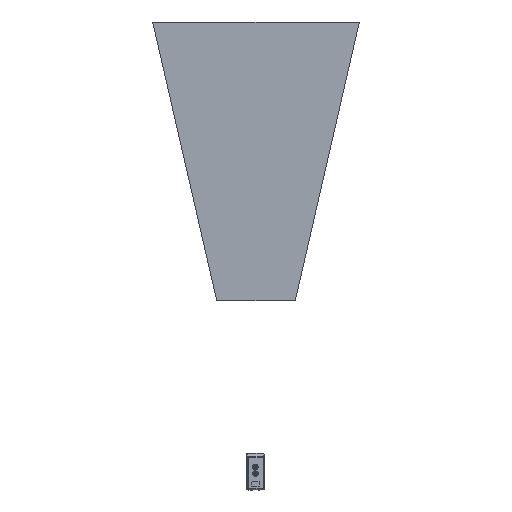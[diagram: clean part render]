
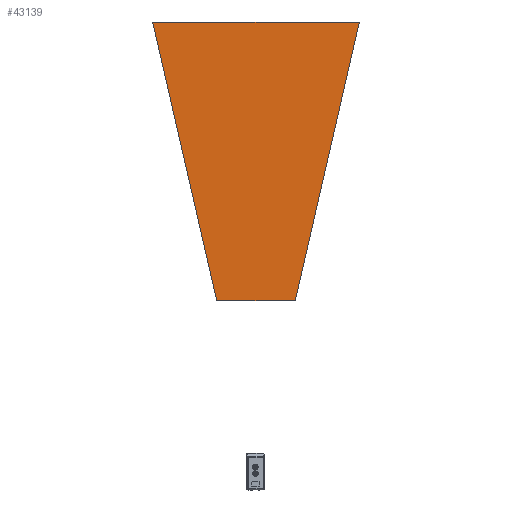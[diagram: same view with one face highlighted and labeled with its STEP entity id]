
A CAD part, left-side view. The second image highlights one B-rep face of the part: STEP entity #43139.
In plain terms, the highlighted planar face has unit normal (1, 0, 0).
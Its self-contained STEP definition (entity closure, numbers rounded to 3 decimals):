
#43100=DIRECTION('',(0.,-0.223,-0.975));
#43101=VECTOR('',#43100,928.483);
#43102=CARTESIAN_POINT('',(72.9,312.,1472.));
#43103=LINE('',#43102,#43101);
#43104=DIRECTION('',(0.,-1.,0.));
#43105=VECTOR('',#43104,255.);
#43106=CARTESIAN_POINT('',(72.9,104.5,567.));
#43107=LINE('',#43106,#43105);
#43108=DIRECTION('',(0.,-0.223,0.975));
#43109=VECTOR('',#43108,928.483);
#43110=CARTESIAN_POINT('',(72.9,-150.5,567.));
#43111=LINE('',#43110,#43109);
#43112=DIRECTION('',(0.,1.,0.));
#43113=VECTOR('',#43112,670.);
#43114=CARTESIAN_POINT('',(72.9,-358.,1472.));
#43115=LINE('',#43114,#43113);
#43116=CARTESIAN_POINT('',(72.9,104.5,567.));
#43117=CARTESIAN_POINT('',(72.9,312.,1472.));
#43118=VERTEX_POINT('',#43116);
#43119=VERTEX_POINT('',#43117);
#43120=CARTESIAN_POINT('',(72.9,-358.,1472.));
#43121=VERTEX_POINT('',#43120);
#43122=CARTESIAN_POINT('',(72.9,-150.5,567.));
#43123=VERTEX_POINT('',#43122);
#43124=CARTESIAN_POINT('',(72.9,0.,0.));
#43125=DIRECTION('',(1.,0.,0.));
#43126=DIRECTION('',(0.,-1.,0.));
#43127=AXIS2_PLACEMENT_3D('',#43124,#43125,#43126);
#43128=PLANE('',#43127);
#43130=ORIENTED_EDGE('',*,*,#43129,.T.);
#43132=ORIENTED_EDGE('',*,*,#43131,.T.);
#43134=ORIENTED_EDGE('',*,*,#43133,.T.);
#43136=ORIENTED_EDGE('',*,*,#43135,.T.);
#43137=EDGE_LOOP('',(#43130,#43132,#43134,#43136));
#43138=FACE_OUTER_BOUND('',#43137,.F.);
#43139=ADVANCED_FACE('',(#43138),#43128,.T.);
#43129=EDGE_CURVE('',#43119,#43118,#43103,.T.);
#43131=EDGE_CURVE('',#43118,#43123,#43107,.T.);
#43133=EDGE_CURVE('',#43123,#43121,#43111,.T.);
#43135=EDGE_CURVE('',#43121,#43119,#43115,.T.);
